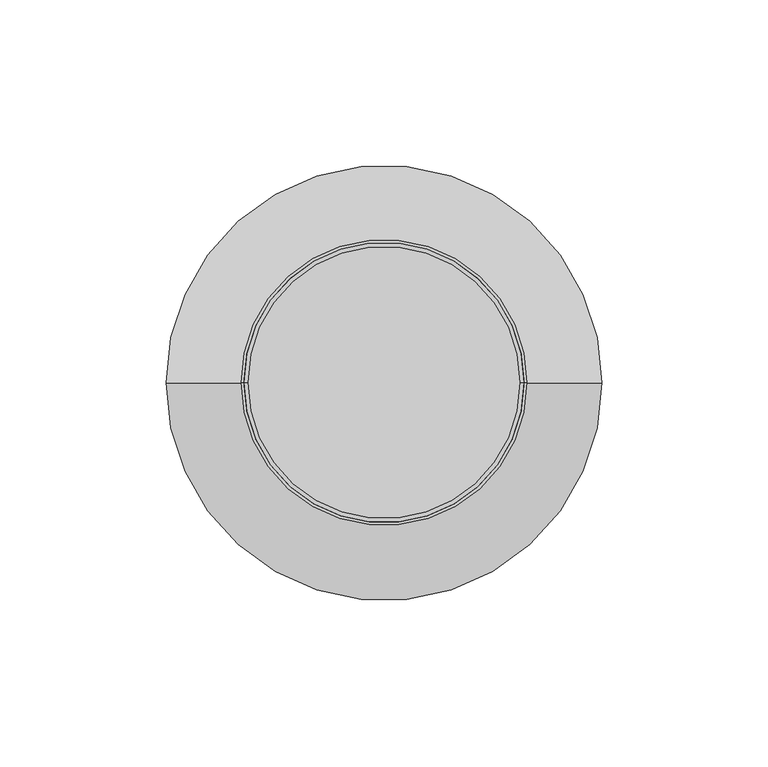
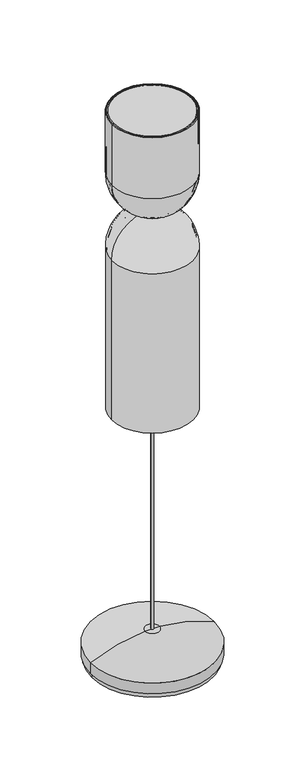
"""IFC4 building model written with IfcOpenShell, lengths in millimetres: light fixture geometry, Lighting_Pendants_Intra-Lighting_Zoe-Z3 : 600lm 11W 830 FO."""

from ifc_helpers import new_model, si_unit, point, frame, origin, origin_with_axes, origin_2d, place, context, project, spatial, polyline, circle_curve, ellipse_curve, trimmed, segment, composite_curve, outline, extrude, source, transform, mapped, element, save
from ifc_brep_helpers import plane_surface, cylinder_surface, revolved_surface, advanced_brep


def light_fixture_9dd68e13(model_context):
    return source(origin(), model_context, "Body", "SolidModel", [
        advanced_brep(
        [(-5.0, 0.0, 500.0), (5.0, 0.0, 500.0), (0.0, 0.0, 500.0), (-5.0, 0.0, 496.5), (5.0, 0.0, 496.5), (-9.8, 0.0, 496.5), (9.8, 0.0, 496.5), (-25.0, 0.0, 489.1982906), (25.0, 0.0, 489.1982906), (-25.0, 0.0, 482.4982906), (25.0, 0.0, 482.4982906), (0.0, 0.0, 482.4982906)],
        [
            (0, 1, circle_curve(frame((0.0, 0.0, 500.0), z_axis=(0.0, 0.0, 1.0), x_axis=(1.0, 0.0, 0.0)), 5.0)),
            (1, 2),
            (2, 0),
            (1, 0, circle_curve(frame((0.0, 0.0, 500.0), z_axis=(0.0, 0.0, 1.0), x_axis=(1.0, 0.0, 0.0)), 5.0)),
            (3, 4, circle_curve(frame((0.0, 0.0, 496.5), z_axis=(0.0, 0.0, 1.0), x_axis=(1.0, 0.0, 0.0)), 5.0)),
            (4, 1),
            (0, 3),
            (4, 3, circle_curve(frame((0.0, 0.0, 496.5), z_axis=(0.0, 0.0, 1.0), x_axis=(1.0, 0.0, 0.0)), 5.0)),
            (5, 6, circle_curve(frame((0.0, 0.0, 496.5), z_axis=(0.0, 0.0, 1.0), x_axis=(1.0, 0.0, 0.0)), 9.8)),
            (6, 4),
            (3, 5),
            (6, 5, circle_curve(frame((0.0, 0.0, 496.5), z_axis=(0.0, 0.0, 1.0), x_axis=(1.0, 0.0, 0.0)), 9.8)),
            (7, 8, circle_curve(frame((0.0, 0.0, 489.1982906), z_axis=(0.0, 0.0, 1.0), x_axis=(1.0, 0.0, 0.0)), 25.0)),
            (8, 6, circle_curve(frame((9.8, 0.0, 477.0281925), z_axis=(0.0, -1.0, 0.0), x_axis=(1.0, 0.0, 0.0)), 19.4718075)),
            (5, 7, circle_curve(frame((-9.8, 0.0, 477.0281925), z_axis=(0.0, -1.0, 0.0), x_axis=(-1.0, 0.0, 0.0)), 19.4718075)),
            (8, 7, circle_curve(frame((0.0, 0.0, 489.1982906), z_axis=(0.0, 0.0, 1.0), x_axis=(1.0, 0.0, 0.0)), 25.0)),
            (9, 10, circle_curve(frame((0.0, 0.0, 482.4982906), z_axis=(0.0, 0.0, 1.0), x_axis=(1.0, 0.0, 0.0)), 25.0)),
            (10, 8),
            (7, 9),
            (10, 9, circle_curve(frame((0.0, 0.0, 482.4982906), z_axis=(0.0, 0.0, 1.0), x_axis=(1.0, 0.0, 0.0)), 25.0)),
            (11, 10),
            (9, 11),
        ],
        [
            plane_surface(frame((0.0, 0.0, 500.0), z_axis=(0.0, 0.0, 1.0), x_axis=(1.0, 0.0, 0.0))),
            cylinder_surface(frame((0.0, 0.0, -268.620728), z_axis=(0.0, 0.0, -1.0), x_axis=(1.0, 0.0, 0.0)), 5.0),
            plane_surface(frame((0.0, 0.0, 496.5), z_axis=(0.0, 0.0, 1.0), x_axis=(1.0, 0.0, 0.0))),
            revolved_surface(trimmed(ellipse_curve(frame((9.8, 0.0, 477.0281925), z_axis=(0.0, 1.0, 0.0), x_axis=(1.0, 0.0, 0.0)), 19.4718075, 19.4718075), [point((9.8, 0.0, 496.5))], [point((25.0, 0.0, 489.1982906))], True, "CARTESIAN"), (0.0, 0.0, -268.620728), (0.0, 0.0, -1.0)),
            cylinder_surface(frame((0.0, 0.0, -268.620728), z_axis=(0.0, 0.0, -1.0), x_axis=(1.0, 0.0, 0.0)), 25.0),
            plane_surface(frame((0.0, 0.0, 482.4982906), z_axis=(0.0, 0.0, -1.0), x_axis=(1.0, 0.0, 0.0))),
        ],
        [
            (0, [[1, 2, 3]]),
            (0, [[4, -3, -2]]),
            (1, [[5, 6, -1, 7]]),
            (1, [[8, -7, -4, -6]]),
            (2, [[9, 10, -5, 11]]),
            (2, [[12, -11, -8, -10]]),
            (3, [[13, 14, -9, 15]]),
            (3, [[16, -15, -12, -14]]),
            (4, [[17, 18, -13, 19]]),
            (4, [[20, -19, -16, -18]]),
            (5, [[21, -17, 22]]),
            (5, [[-22, -20, -21]]),
        ],
    ),
        advanced_brep(
        [(-42.9586151, 0.0, 280.0000031), (42.9586151, 0.0, 280.0000031), (42.9586151, 0.0, 457.6805564), (-42.9586151, 0.0, 457.6805564), (-42.1586151, 0.0, 458.2055116), (42.1586151, 0.0, 458.2055116), (42.1586151, 0.0, 280.0000031), (-42.1586151, 0.0, 280.0000031), (-5.0, 0.0, 498.6299346), (5.0, 0.0, 498.6299346), (13.1648273, 0.0, 498.6299346), (-13.1648273, 0.0, 498.6299346), (-5.0, 0.0, 500.0), (5.0, 0.0, 500.0), (-10.0209635, 0.0, 500.0), (10.0209635, 0.0, 500.0)],
        [
            (0, 1, circle_curve(frame((0.0, 0.0, 280.0000031), z_axis=(0.0, 0.0, 1.0), x_axis=(1.0, 0.0, 0.0)), 42.9586151)),
            (1, 2),
            (2, 3, circle_curve(frame((0.0, 0.0, 457.6805564), z_axis=(0.0, 0.0, -1.0), x_axis=(1.0, 0.0, 0.0)), 42.9586151)),
            (3, 0),
            (1, 0, circle_curve(frame((0.0, 0.0, 280.0000031), z_axis=(0.0, 0.0, 1.0), x_axis=(1.0, 0.0, 0.0)), 42.9586151)),
            (3, 2, circle_curve(frame((0.0, 0.0, 457.6805564), z_axis=(0.0, 0.0, -1.0), x_axis=(1.0, 0.0, 0.0)), 42.9586151)),
            (4, 5, circle_curve(frame((0.0, 0.0, 458.2055116), z_axis=(0.0, 0.0, 1.0), x_axis=(1.0, 0.0, 0.0)), 42.1586151)),
            (5, 6),
            (6, 7, circle_curve(frame((0.0, 0.0, 280.0000031), z_axis=(0.0, 0.0, -1.0), x_axis=(1.0, 0.0, 0.0)), 42.1586151)),
            (7, 4),
            (5, 4, circle_curve(frame((0.0, 0.0, 458.2055116), z_axis=(0.0, 0.0, 1.0), x_axis=(1.0, 0.0, 0.0)), 42.1586151)),
            (7, 6, circle_curve(frame((0.0, 0.0, 280.0000031), z_axis=(0.0, 0.0, -1.0), x_axis=(1.0, 0.0, 0.0)), 42.1586151)),
            (8, 9, circle_curve(frame((0.0, 0.0, 498.6299346), z_axis=(0.0, 0.0, 1.0), x_axis=(1.0, 0.0, 0.0)), 5.0)),
            (9, 10),
            (10, 11, circle_curve(frame((0.0, 0.0, 498.6299346), z_axis=(0.0, 0.0, -1.0), x_axis=(1.0, 0.0, 0.0)), 13.1648273)),
            (11, 8),
            (9, 8, circle_curve(frame((0.0, 0.0, 498.6299346), z_axis=(0.0, 0.0, 1.0), x_axis=(1.0, 0.0, 0.0)), 5.0)),
            (11, 10, circle_curve(frame((0.0, 0.0, 498.6299346), z_axis=(0.0, 0.0, -1.0), x_axis=(1.0, 0.0, 0.0)), 13.1648273)),
            (12, 13, circle_curve(frame((0.0, 0.0, 500.0), z_axis=(0.0, 0.0, 1.0), x_axis=(1.0, 0.0, 0.0)), 5.0)),
            (13, 9),
            (8, 12),
            (13, 12, circle_curve(frame((0.0, 0.0, 500.0), z_axis=(0.0, 0.0, 1.0), x_axis=(1.0, 0.0, 0.0)), 5.0)),
            (14, 15, circle_curve(frame((0.0, 0.0, 500.0), z_axis=(0.0, 0.0, 1.0), x_axis=(1.0, 0.0, 0.0)), 10.0209635)),
            (15, 13),
            (12, 14),
            (15, 14, circle_curve(frame((0.0, 0.0, 500.0), z_axis=(0.0, 0.0, 1.0), x_axis=(1.0, 0.0, 0.0)), 10.0209635)),
            (2, 15, circle_curve(frame((-0.0224785, 0.0, 458.2055116), z_axis=(0.0, -1.0, 0.0), x_axis=(-1.0, 0.0, 0.0)), 42.9842993)),
            (14, 3, circle_curve(frame((0.0224785, 0.0, 458.2055116), z_axis=(0.0, -1.0, 0.0), x_axis=(1.0, 0.0, 0.0)), 42.9842993)),
            (6, 1),
            (0, 7),
            (10, 5, circle_curve(frame((-0.5190391, 0.0, 458.2055116), z_axis=(0.0, 1.0, 0.0), x_axis=(-1.0, 0.0, 0.0)), 42.6776543)),
            (4, 11, circle_curve(frame((0.5190391, 0.0, 458.2055116), z_axis=(0.0, 1.0, 0.0), x_axis=(1.0, 0.0, 0.0)), 42.6776543)),
        ],
        [
            cylinder_surface(frame((0.0, 0.0, 2494.3150062), z_axis=(0.0, 0.0, -1.0), x_axis=(1.0, 0.0, 0.0)), 42.9586151),
            revolved_surface(polyline([(42.1586151, 0.0, 280.00000309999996), (42.1586151, 0.0, 458.20551160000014)]), (0.0, 0.0, 2494.3150062), (0.0, 0.0, -1.0)),
            plane_surface(frame((0.0, 0.0, 498.6299346), z_axis=(0.0, 0.0, -1.0), x_axis=(1.0, 0.0, 0.0))),
            revolved_surface(polyline([(5.0, 0.0, 498.62993460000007), (5.0, 0.0, 500.0)]), (0.0, 0.0, 2494.3150062), (0.0, 0.0, -1.0)),
            plane_surface(frame((0.0, 0.0, 500.0), z_axis=(0.0, 0.0, 1.0), x_axis=(1.0, 0.0, 0.0))),
            revolved_surface(trimmed(ellipse_curve(frame((-0.0224785, 0.0, 458.2055116), z_axis=(0.0, 1.0, 0.0), x_axis=(-1.0, 0.0, 0.0)), 42.9842993, 42.9842993), [point((10.0209635, 0.0, 500.0))], [point((42.9586151, 0.0, 457.6805564))], True, "CARTESIAN"), (0.0, 0.0, 2494.3150062), (0.0, 0.0, -1.0)),
            plane_surface(frame((0.0, 0.0, 280.0000031), z_axis=(0.0, 0.0, -1.0), x_axis=(1.0, 0.0, 0.0))),
            revolved_surface(trimmed(ellipse_curve(frame((-0.5190391, 0.0, 458.2055116), z_axis=(0.0, -1.0, 0.0), x_axis=(-1.0, 0.0, 0.0)), 42.6776543, 42.6776543), [point((42.1586151, 0.0, 458.2055116))], [point((13.1648273, 0.0, 498.6299346))], True, "CARTESIAN"), (0.0, 0.0, 2494.3150062), (0.0, 0.0, -1.0)),
        ],
        [
            (0, [[1, 2, 3, 4]]),
            (0, [[5, -4, 6, -2]]),
            (1, [[7, 8, 9, 10]]),
            (1, [[11, -10, 12, -8]]),
            (2, [[13, 14, 15, 16]]),
            (2, [[17, -16, 18, -14]]),
            (3, [[19, 20, -13, 21]]),
            (3, [[22, -21, -17, -20]]),
            (4, [[23, 24, -19, 25]]),
            (4, [[26, -25, -22, -24]]),
            (5, [[-3, 27, -23, 28]]),
            (5, [[-6, -28, -26, -27]]),
            (6, [[-9, 29, -1, 30]]),
            (6, [[-12, -30, -5, -29]]),
            (7, [[-15, 31, -7, 32]]),
            (7, [[-18, -32, -11, -31]]),
        ],
    ),
        advanced_brep(
        [(-41.079333, 0.0, 458.1789517), (41.079333, 0.0, 458.1789517), (41.079333, 0.0, 280.0000031), (-41.079333, 0.0, 280.0000031), (-10.4087374, 0.0, 497.8425134), (10.4087374, 0.0, 497.8425134), (-5.0, 0.0, 497.8425134), (5.0, 0.0, 497.8425134), (-5.0, 0.0, 498.6299346), (5.0, 0.0, 498.6299346), (-13.1648273, 0.0, 498.6299346), (13.1648273, 0.0, 498.6299346), (-42.1586151, 0.0, 458.1789517), (42.1586151, 0.0, 458.1789517), (-42.1586151, 0.0, 280.0000031), (42.1586151, 0.0, 280.0000031)],
        [
            (0, 1, circle_curve(frame((0.0, 0.0, 458.1789517), z_axis=(0.0, 0.0, 1.0), x_axis=(1.0, 0.0, 0.0)), 41.079333)),
            (1, 2),
            (2, 3, circle_curve(frame((0.0, 0.0, 280.0000031), z_axis=(0.0, 0.0, -1.0), x_axis=(1.0, 0.0, 0.0)), 41.079333)),
            (3, 0),
            (1, 0, circle_curve(frame((0.0, 0.0, 458.1789517), z_axis=(0.0, 0.0, 1.0), x_axis=(1.0, 0.0, 0.0)), 41.079333)),
            (3, 2, circle_curve(frame((0.0, 0.0, 280.0000031), z_axis=(0.0, 0.0, -1.0), x_axis=(1.0, 0.0, 0.0)), 41.079333)),
            (4, 5, circle_curve(frame((0.0, 0.0, 497.8425134), z_axis=(0.0, 0.0, 1.0), x_axis=(1.0, 0.0, 0.0)), 10.4087374)),
            (5, 1, circle_curve(frame((0.0973516, 0.0, 458.1789517), z_axis=(0.0, 1.0, 0.0), x_axis=(-1.0, 0.0, 0.0)), 40.9819814)),
            (0, 4, circle_curve(frame((-0.0973516, 0.0, 458.1789517), z_axis=(0.0, 1.0, 0.0), x_axis=(1.0, 0.0, 0.0)), 40.9819814)),
            (5, 4, circle_curve(frame((0.0, 0.0, 497.8425134), z_axis=(0.0, 0.0, 1.0), x_axis=(1.0, 0.0, 0.0)), 10.4087374)),
            (6, 7, circle_curve(frame((0.0, 0.0, 497.8425134), z_axis=(0.0, 0.0, 1.0), x_axis=(1.0, 0.0, 0.0)), 5.0)),
            (7, 5),
            (4, 6),
            (7, 6, circle_curve(frame((0.0, 0.0, 497.8425134), z_axis=(0.0, 0.0, 1.0), x_axis=(1.0, 0.0, 0.0)), 5.0)),
            (8, 9, circle_curve(frame((0.0, 0.0, 498.6299346), z_axis=(0.0, 0.0, 1.0), x_axis=(1.0, 0.0, 0.0)), 5.0)),
            (9, 7),
            (6, 8),
            (9, 8, circle_curve(frame((0.0, 0.0, 498.6299346), z_axis=(0.0, 0.0, 1.0), x_axis=(1.0, 0.0, 0.0)), 5.0)),
            (10, 11, circle_curve(frame((0.0, 0.0, 498.6299346), z_axis=(0.0, 0.0, 1.0), x_axis=(1.0, 0.0, 0.0)), 13.1648273)),
            (11, 9),
            (8, 10),
            (11, 10, circle_curve(frame((0.0, 0.0, 498.6299346), z_axis=(0.0, 0.0, 1.0), x_axis=(1.0, 0.0, 0.0)), 13.1648273)),
            (12, 13, circle_curve(frame((0.0, 0.0, 458.1789517), z_axis=(0.0, 0.0, 1.0), x_axis=(1.0, 0.0, 0.0)), 42.1586151)),
            (13, 11, circle_curve(frame((-0.5560824, 0.0, 458.1789517), z_axis=(0.0, -1.0, 0.0), x_axis=(-1.0, 0.0, 0.0)), 42.7146975)),
            (10, 12, circle_curve(frame((0.5560824, 0.0, 458.1789517), z_axis=(0.0, -1.0, 0.0), x_axis=(1.0, 0.0, 0.0)), 42.7146975)),
            (13, 12, circle_curve(frame((0.0, 0.0, 458.1789517), z_axis=(0.0, 0.0, 1.0), x_axis=(1.0, 0.0, 0.0)), 42.1586151)),
            (14, 15, circle_curve(frame((0.0, 0.0, 280.0000031), z_axis=(0.0, 0.0, 1.0), x_axis=(1.0, 0.0, 0.0)), 42.1586151)),
            (15, 13),
            (12, 14),
            (15, 14, circle_curve(frame((0.0, 0.0, 280.0000031), z_axis=(0.0, 0.0, 1.0), x_axis=(1.0, 0.0, 0.0)), 42.1586151)),
            (2, 15),
            (14, 3),
        ],
        [
            revolved_surface(polyline([(41.079333, 0.0, 280.00000309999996), (41.079333, 0.0, 458.17895169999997)]), (0.0, 0.0, 2494.3150062), (0.0, 0.0, -1.0)),
            revolved_surface(trimmed(ellipse_curve(frame((0.0973516, 0.0, 458.1789517), z_axis=(0.0, -1.0, 0.0), x_axis=(-1.0, 0.0, 0.0)), 40.9819814, 40.9819814), [point((41.079333, 0.0, 458.1789517))], [point((10.4087374, 0.0, 497.8425134))], True, "CARTESIAN"), (0.0, 0.0, 2494.3150062), (0.0, 0.0, -1.0)),
            plane_surface(frame((0.0, 0.0, 497.8425134), z_axis=(0.0, 0.0, -1.0), x_axis=(1.0, 0.0, 0.0))),
            revolved_surface(polyline([(5.0, 0.0, 497.8425133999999), (5.0, 0.0, 498.62993460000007)]), (0.0, 0.0, 2494.3150062), (0.0, 0.0, -1.0)),
            plane_surface(frame((0.0, 0.0, 498.6299346), z_axis=(0.0, 0.0, 1.0), x_axis=(1.0, 0.0, 0.0))),
            revolved_surface(trimmed(ellipse_curve(frame((-0.5560824, 0.0, 458.1789517), z_axis=(0.0, 1.0, 0.0), x_axis=(-1.0, 0.0, 0.0)), 42.7146975, 42.7146975), [point((13.1648273, 0.0, 498.6299346))], [point((42.1586151, 0.0, 458.1789517))], True, "CARTESIAN"), (0.0, 0.0, 2494.3150062), (0.0, 0.0, -1.0)),
            cylinder_surface(frame((0.0, 0.0, 2494.3150062), z_axis=(0.0, 0.0, -1.0), x_axis=(1.0, 0.0, 0.0)), 42.1586151),
            plane_surface(frame((0.0, 0.0, 280.0000031), z_axis=(0.0, 0.0, -1.0), x_axis=(1.0, 0.0, 0.0))),
        ],
        [
            (0, [[1, 2, 3, 4]]),
            (0, [[5, -4, 6, -2]]),
            (1, [[7, 8, -1, 9]]),
            (1, [[10, -9, -5, -8]]),
            (2, [[11, 12, -7, 13]]),
            (2, [[14, -13, -10, -12]]),
            (3, [[15, 16, -11, 17]]),
            (3, [[18, -17, -14, -16]]),
            (4, [[19, 20, -15, 21]]),
            (4, [[22, -21, -18, -20]]),
            (5, [[23, 24, -19, 25]]),
            (5, [[26, -25, -22, -24]]),
            (6, [[27, 28, -23, 29]]),
            (6, [[30, -29, -26, -28]]),
            (7, [[-3, 31, -27, 32]]),
            (7, [[-6, -32, -30, -31]]),
        ],
    ),
        advanced_brep(
        [(-5.0, 0.0, 500.0), (5.0, 0.0, 500.0), (0.0, 0.0, 500.0), (-5.0, 0.0, 503.5), (5.0, 0.0, 503.5), (-9.8, 0.0, 503.5), (9.8, 0.0, 503.5), (-25.0, 0.0, 510.8017094), (25.0, 0.0, 510.8017094), (-25.0, 0.0, 517.5017094), (25.0, 0.0, 517.5017094), (0.0, 0.0, 517.5017094)],
        [
            (0, 1, circle_curve(frame((0.0, 0.0, 500.0), z_axis=(0.0, 0.0, -1.0), x_axis=(1.0, 0.0, 0.0)), 5.0)),
            (1, 2),
            (2, 0),
            (1, 0, circle_curve(frame((0.0, 0.0, 500.0), z_axis=(0.0, 0.0, -1.0), x_axis=(1.0, 0.0, 0.0)), 5.0)),
            (3, 4, circle_curve(frame((0.0, 0.0, 503.5), z_axis=(0.0, 0.0, -1.0), x_axis=(1.0, 0.0, 0.0)), 5.0)),
            (4, 1),
            (0, 3),
            (4, 3, circle_curve(frame((0.0, 0.0, 503.5), z_axis=(0.0, 0.0, -1.0), x_axis=(1.0, 0.0, 0.0)), 5.0)),
            (5, 6, circle_curve(frame((0.0, 0.0, 503.5), z_axis=(0.0, 0.0, -1.0), x_axis=(1.0, 0.0, 0.0)), 9.8)),
            (6, 4),
            (3, 5),
            (6, 5, circle_curve(frame((0.0, 0.0, 503.5), z_axis=(0.0, 0.0, -1.0), x_axis=(1.0, 0.0, 0.0)), 9.8)),
            (7, 8, circle_curve(frame((0.0, 0.0, 510.8017094), z_axis=(0.0, 0.0, -1.0), x_axis=(1.0, 0.0, 0.0)), 25.0)),
            (8, 6, circle_curve(frame((9.8, 0.0, 522.9718075), z_axis=(0.0, 1.0, 0.0), x_axis=(1.0, 0.0, 0.0)), 19.4718075)),
            (5, 7, circle_curve(frame((-9.8, 0.0, 522.9718075), z_axis=(0.0, 1.0, 0.0), x_axis=(-1.0, 0.0, 0.0)), 19.4718075)),
            (8, 7, circle_curve(frame((0.0, 0.0, 510.8017094), z_axis=(0.0, 0.0, -1.0), x_axis=(1.0, 0.0, 0.0)), 25.0)),
            (9, 10, circle_curve(frame((0.0, 0.0, 517.5017094), z_axis=(0.0, 0.0, -1.0), x_axis=(1.0, 0.0, 0.0)), 25.0)),
            (10, 8),
            (7, 9),
            (10, 9, circle_curve(frame((0.0, 0.0, 517.5017094), z_axis=(0.0, 0.0, -1.0), x_axis=(1.0, 0.0, 0.0)), 25.0)),
            (11, 10),
            (9, 11),
        ],
        [
            plane_surface(frame((0.0, 0.0, 500.0), z_axis=(0.0, 0.0, -1.0), x_axis=(1.0, 0.0, 0.0))),
            cylinder_surface(frame((0.0, 0.0, 1268.620728), z_axis=(0.0, 0.0, 1.0), x_axis=(1.0, 0.0, 0.0)), 5.0),
            plane_surface(frame((0.0, 0.0, 503.5), z_axis=(0.0, 0.0, -1.0), x_axis=(1.0, 0.0, 0.0))),
            revolved_surface(trimmed(ellipse_curve(frame((9.8, 0.0, 522.9718075), z_axis=(0.0, -1.0, 0.0), x_axis=(1.0, 0.0, 0.0)), 19.4718075, 19.4718075), [point((9.8, 0.0, 503.5))], [point((25.0, 0.0, 510.8017094))], True, "CARTESIAN"), (0.0, 0.0, 1268.620728), (0.0, 0.0, 1.0)),
            cylinder_surface(frame((0.0, 0.0, 1268.620728), z_axis=(0.0, 0.0, 1.0), x_axis=(1.0, 0.0, 0.0)), 25.0),
            plane_surface(frame((0.0, 0.0, 517.5017094), z_axis=(0.0, 0.0, 1.0), x_axis=(1.0, 0.0, 0.0))),
        ],
        [
            (0, [[1, 2, 3]]),
            (0, [[4, -3, -2]]),
            (1, [[5, 6, -1, 7]]),
            (1, [[8, -7, -4, -6]]),
            (2, [[9, 10, -5, 11]]),
            (2, [[12, -11, -8, -10]]),
            (3, [[13, 14, -9, 15]]),
            (3, [[16, -15, -12, -14]]),
            (4, [[17, 18, -13, 19]]),
            (4, [[20, -19, -16, -18]]),
            (5, [[21, -17, 22]]),
            (5, [[-22, -20, -21]]),
        ],
    ),
        advanced_brep(
        [(9.9874082, 0.0, 500.0), (-9.9874082, 0.0, 500.0), (-42.9999371, 0.0, 541.8209938), (42.9999371, 0.0, 541.8209938), (4.9982596, 0.0, 500.0), (-4.9982596, 0.0, 500.0), (4.9982596, 0.0, 501.1413211), (-4.9982596, 0.0, 501.1413211), (12.7433963, 0.0, 501.1413211), (-12.7433963, 0.0, 501.1413211), (42.5620369, 0.0, 541.8227675), (-42.5620369, 0.0, 541.8227675), (42.204104, 0.0, 609.9999718), (-42.204104, 0.0, 609.9999718), (42.9999371, 0.0, 609.9999718), (-42.9999371, 0.0, 609.9999718)],
        [
            (0, 1, circle_curve(frame((0.0, 0.0, 500.0), z_axis=(0.0, 0.0, 1.0), x_axis=(-1.0, 0.0, 0.0)), 9.9874082)),
            (1, 2, circle_curve(frame((0.2179596, 0.0, 541.996044), z_axis=(0.0, 1.0, 0.0), x_axis=(1.0, 0.0, 0.0)), 43.2182512)),
            (2, 3, circle_curve(frame((0.0, 0.0, 541.8209938), z_axis=(0.0, 0.0, -1.0), x_axis=(-1.0, 0.0, 0.0)), 42.9999371)),
            (3, 0, circle_curve(frame((-0.2179596, 0.0, 541.996044), z_axis=(0.0, 1.0, 0.0), x_axis=(-1.0, 0.0, 0.0)), 43.2182512)),
            (1, 0, circle_curve(frame((0.0, 0.0, 500.0), z_axis=(0.0, 0.0, 1.0), x_axis=(-1.0, 0.0, 0.0)), 9.9874082)),
            (3, 2, circle_curve(frame((0.0, 0.0, 541.8209938), z_axis=(0.0, 0.0, -1.0), x_axis=(-1.0, 0.0, 0.0)), 42.9999371)),
            (4, 5, circle_curve(frame((0.0, 0.0, 500.0), z_axis=(0.0, 0.0, 1.0), x_axis=(-1.0, 0.0, 0.0)), 4.9982596)),
            (5, 1),
            (0, 4),
            (5, 4, circle_curve(frame((0.0, 0.0, 500.0), z_axis=(0.0, 0.0, 1.0), x_axis=(-1.0, 0.0, 0.0)), 4.9982596)),
            (6, 7, circle_curve(frame((0.0, 0.0, 501.1413211), z_axis=(0.0, 0.0, 1.0), x_axis=(-1.0, 0.0, 0.0)), 4.9982596)),
            (7, 5),
            (4, 6),
            (7, 6, circle_curve(frame((0.0, 0.0, 501.1413211), z_axis=(0.0, 0.0, 1.0), x_axis=(-1.0, 0.0, 0.0)), 4.9982596)),
            (8, 9, circle_curve(frame((0.0, 0.0, 501.1413211), z_axis=(0.0, 0.0, 1.0), x_axis=(-1.0, 0.0, 0.0)), 12.7433963)),
            (9, 7),
            (6, 8),
            (9, 8, circle_curve(frame((0.0, 0.0, 501.1413211), z_axis=(0.0, 0.0, 1.0), x_axis=(-1.0, 0.0, 0.0)), 12.7433963)),
            (10, 11, circle_curve(frame((0.0, 0.0, 541.8227675), z_axis=(0.0, 0.0, 1.0), x_axis=(-1.0, 0.0, 0.0)), 42.5620369)),
            (11, 9, circle_curve(frame((0.4499992, 0.0, 542.0807411), z_axis=(0.0, -1.0, 0.0), x_axis=(1.0, 0.0, 0.0)), 43.0128097)),
            (8, 10, circle_curve(frame((-0.4499992, 0.0, 542.0807411), z_axis=(0.0, -1.0, 0.0), x_axis=(-1.0, 0.0, 0.0)), 43.0128097)),
            (11, 10, circle_curve(frame((0.0, 0.0, 541.8227675), z_axis=(0.0, 0.0, 1.0), x_axis=(-1.0, 0.0, 0.0)), 42.5620369)),
            (12, 13, circle_curve(frame((0.0, 0.0, 609.9999718), z_axis=(0.0, 0.0, 1.0), x_axis=(-1.0, 0.0, 0.0)), 42.204104)),
            (13, 11),
            (10, 12),
            (13, 12, circle_curve(frame((0.0, 0.0, 609.9999718), z_axis=(0.0, 0.0, 1.0), x_axis=(-1.0, 0.0, 0.0)), 42.204104)),
            (14, 15, circle_curve(frame((0.0, 0.0, 609.9999718), z_axis=(0.0, 0.0, 1.0), x_axis=(-1.0, 0.0, 0.0)), 42.9999371)),
            (15, 13),
            (12, 14),
            (15, 14, circle_curve(frame((0.0, 0.0, 609.9999718), z_axis=(0.0, 0.0, 1.0), x_axis=(-1.0, 0.0, 0.0)), 42.9999371)),
            (2, 15),
            (14, 3),
        ],
        [
            revolved_surface(trimmed(ellipse_curve(frame((0.2179596, 0.0, 541.996044), z_axis=(0.0, -1.0, 0.0), x_axis=(1.0, 0.0, 0.0)), 43.2182512, 43.2182512), [point((-42.9999371, 0.0, 541.8209938))], [point((-9.9874082, 0.0, 500.0))], True, "CARTESIAN"), (0.0, 0.0, 2714.3150031), (0.0, 0.0, -1.0)),
            plane_surface(frame((0.0, 0.0, 500.0), z_axis=(0.0, 0.0, -1.0), x_axis=(-1.0, 0.0, 0.0))),
            revolved_surface(polyline([(-4.9982596, 0.0, 500.0), (-4.9982596, 0.0, 501.1413210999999)]), (0.0, 0.0, 2714.3150031), (0.0, 0.0, -1.0)),
            plane_surface(frame((0.0, 0.0, 501.1413211), z_axis=(0.0, 0.0, 1.0), x_axis=(-1.0, 0.0, 0.0))),
            revolved_surface(trimmed(ellipse_curve(frame((0.4499992, 0.0, 542.0807411), z_axis=(0.0, 1.0, 0.0), x_axis=(1.0, 0.0, 0.0)), 43.0128097, 43.0128097), [point((-12.7433963, 0.0, 501.1413211))], [point((-42.5620369, 0.0, 541.8227675))], True, "CARTESIAN"), (0.0, 0.0, 2714.3150031), (0.0, 0.0, -1.0)),
            revolved_surface(polyline([(-42.5620369, 0.0, 541.8227675), (-42.204104, 0.0, 609.9999718)]), (0.0, 0.0, 2714.3150031), (0.0, 0.0, -1.0)),
            plane_surface(frame((0.0, 0.0, 609.9999718), z_axis=(0.0, 0.0, 1.0), x_axis=(-1.0, 0.0, 0.0))),
            cylinder_surface(frame((0.0, 0.0, 2714.3150031), z_axis=(0.0, 0.0, -1.0), x_axis=(-1.0, 0.0, 0.0)), 42.9999371),
        ],
        [
            (0, [[1, 2, 3, 4]]),
            (0, [[5, -4, 6, -2]]),
            (1, [[7, 8, -1, 9]]),
            (1, [[10, -9, -5, -8]]),
            (2, [[11, 12, -7, 13]]),
            (2, [[14, -13, -10, -12]]),
            (3, [[15, 16, -11, 17]]),
            (3, [[18, -17, -14, -16]]),
            (4, [[19, 20, -15, 21]]),
            (4, [[22, -21, -18, -20]]),
            (5, [[23, 24, -19, 25]]),
            (5, [[26, -25, -22, -24]]),
            (6, [[27, 28, -23, 29]]),
            (6, [[30, -29, -26, -28]]),
            (7, [[-3, 31, -27, 32]]),
            (7, [[-6, -32, -30, -31]]),
        ],
    ),
        advanced_brep(
        [(12.7433963, 0.0, 501.1413211), (-12.7433963, 0.0, 501.1413211), (-42.5620369, 0.0, 541.8227675), (42.5620369, 0.0, 541.8227675), (5.0, 0.0, 501.1413211), (-5.0, 0.0, 501.1413211), (9.7551095, 0.0, 501.9999506), (-9.7551095, 0.0, 501.9999506), (-5.0, 0.0, 501.9999506), (5.0, 0.0, 501.9999506), (40.9999411, 0.0, 541.8227675), (-40.9999411, 0.0, 541.8227675), (40.9999411, 0.0, 609.9999718), (-40.9999411, 0.0, 609.9999718), (42.204104, 0.0, 609.9999718), (-42.204104, 0.0, 609.9999718)],
        [
            (0, 1, circle_curve(frame((0.0, 0.0, 501.1413211), z_axis=(0.0, 0.0, 1.0), x_axis=(-1.0, 0.0, 0.0)), 12.7433963)),
            (1, 2, circle_curve(frame((0.4127903, 0.0, 542.0534678), z_axis=(0.0, 1.0, 0.0), x_axis=(1.0, 0.0, 0.0)), 42.9754464)),
            (2, 3, circle_curve(frame((0.0, 0.0, 541.8227675), z_axis=(0.0, 0.0, -1.0), x_axis=(-1.0, 0.0, 0.0)), 42.5620369)),
            (3, 0, circle_curve(frame((-0.4127903, 0.0, 542.0534678), z_axis=(0.0, 1.0, 0.0), x_axis=(-1.0, 0.0, 0.0)), 42.9754464)),
            (1, 0, circle_curve(frame((0.0, 0.0, 501.1413211), z_axis=(0.0, 0.0, 1.0), x_axis=(-1.0, 0.0, 0.0)), 12.7433963)),
            (3, 2, circle_curve(frame((0.0, 0.0, 541.8227675), z_axis=(0.0, 0.0, -1.0), x_axis=(-1.0, 0.0, 0.0)), 42.5620369)),
            (4, 5, circle_curve(frame((0.0, 0.0, 501.1413211), z_axis=(0.0, 0.0, 1.0), x_axis=(-1.0, 0.0, 0.0)), 5.0)),
            (5, 1),
            (0, 4),
            (5, 4, circle_curve(frame((0.0, 0.0, 501.1413211), z_axis=(0.0, 0.0, 1.0), x_axis=(-1.0, 0.0, 0.0)), 5.0)),
            (6, 7, circle_curve(frame((0.0, 0.0, 501.9999506), z_axis=(0.0, 0.0, 1.0), x_axis=(-1.0, 0.0, 0.0)), 9.7551095)),
            (7, 8),
            (8, 9, circle_curve(frame((0.0, 0.0, 501.9999506), z_axis=(0.0, 0.0, -1.0), x_axis=(-1.0, 0.0, 0.0)), 5.0)),
            (9, 6),
            (7, 6, circle_curve(frame((0.0, 0.0, 501.9999506), z_axis=(0.0, 0.0, 1.0), x_axis=(-1.0, 0.0, 0.0)), 9.7551095)),
            (9, 8, circle_curve(frame((0.0, 0.0, 501.9999506), z_axis=(0.0, 0.0, -1.0), x_axis=(-1.0, 0.0, 0.0)), 5.0)),
            (10, 11, circle_curve(frame((0.0, 0.0, 541.8227675), z_axis=(0.0, 0.0, 1.0), x_axis=(-1.0, 0.0, 0.0)), 40.9999411)),
            (11, 7, circle_curve(frame((0.8518479, 0.0, 542.4908261), z_axis=(0.0, -1.0, 0.0), x_axis=(1.0, 0.0, 0.0)), 41.8571206)),
            (6, 10, circle_curve(frame((-0.8518479, 0.0, 542.4908261), z_axis=(0.0, -1.0, 0.0), x_axis=(-1.0, 0.0, 0.0)), 41.8571206)),
            (11, 10, circle_curve(frame((0.0, 0.0, 541.8227675), z_axis=(0.0, 0.0, 1.0), x_axis=(-1.0, 0.0, 0.0)), 40.9999411)),
            (12, 13, circle_curve(frame((0.0, 0.0, 609.9999718), z_axis=(0.0, 0.0, 1.0), x_axis=(-1.0, 0.0, 0.0)), 40.9999411)),
            (13, 11),
            (10, 12),
            (13, 12, circle_curve(frame((0.0, 0.0, 609.9999718), z_axis=(0.0, 0.0, 1.0), x_axis=(-1.0, 0.0, 0.0)), 40.9999411)),
            (14, 15, circle_curve(frame((0.0, 0.0, 609.9999718), z_axis=(0.0, 0.0, 1.0), x_axis=(-1.0, 0.0, 0.0)), 42.204104)),
            (15, 13),
            (12, 14),
            (15, 14, circle_curve(frame((0.0, 0.0, 609.9999718), z_axis=(0.0, 0.0, 1.0), x_axis=(-1.0, 0.0, 0.0)), 42.204104)),
            (2, 15),
            (14, 3),
            (8, 5),
            (4, 9),
        ],
        [
            revolved_surface(trimmed(ellipse_curve(frame((0.4127903, 0.0, 542.0534678), z_axis=(0.0, -1.0, 0.0), x_axis=(1.0, 0.0, 0.0)), 42.9754464, 42.9754464), [point((-42.5620369, 0.0, 541.8227675))], [point((-12.7433963, 0.0, 501.1413211))], True, "CARTESIAN"), (0.0, 0.0, 2714.3150031), (0.0, 0.0, -1.0)),
            plane_surface(frame((0.0, 0.0, 501.1413211), z_axis=(0.0, 0.0, -1.0), x_axis=(-1.0, 0.0, 0.0))),
            plane_surface(frame((0.0, 0.0, 501.9999506), z_axis=(0.0, 0.0, 1.0), x_axis=(-1.0, 0.0, 0.0))),
            revolved_surface(trimmed(ellipse_curve(frame((0.8518479, 0.0, 542.4908261), z_axis=(0.0, 1.0, 0.0), x_axis=(1.0, 0.0, 0.0)), 41.8571206, 41.8571206), [point((-9.7551095, 0.0, 501.9999506))], [point((-40.9999411, 0.0, 541.8227675))], True, "CARTESIAN"), (0.0, 0.0, 2714.3150031), (0.0, 0.0, -1.0)),
            revolved_surface(polyline([(-40.9999411, 0.0, 541.8227675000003), (-40.9999411, 0.0, 609.9999717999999)]), (0.0, 0.0, 2714.3150031), (0.0, 0.0, -1.0)),
            plane_surface(frame((0.0, 0.0, 609.9999718), z_axis=(0.0, 0.0, 1.0), x_axis=(-1.0, 0.0, 0.0))),
            revolved_surface(polyline([(-42.204104, 0.0, 609.9999718), (-42.5620369, 0.0, 541.8227675)]), (0.0, 0.0, 2714.3150031), (0.0, 0.0, -1.0)),
            revolved_surface(polyline([(-5.0, 0.0, 501.1413210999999), (-5.0, 0.0, 501.9999505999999)]), (0.0, 0.0, 2714.3150031), (0.0, 0.0, -1.0)),
        ],
        [
            (0, [[1, 2, 3, 4]]),
            (0, [[5, -4, 6, -2]]),
            (1, [[7, 8, -1, 9]]),
            (1, [[10, -9, -5, -8]]),
            (2, [[11, 12, 13, 14]]),
            (2, [[15, -14, 16, -12]]),
            (3, [[17, 18, -11, 19]]),
            (3, [[20, -19, -15, -18]]),
            (4, [[21, 22, -17, 23]]),
            (4, [[24, -23, -20, -22]]),
            (5, [[25, 26, -21, 27]]),
            (5, [[28, -27, -24, -26]]),
            (6, [[-3, 29, -25, 30]]),
            (6, [[-6, -30, -28, -29]]),
            (7, [[-13, 31, -7, 32]]),
            (7, [[-16, -32, -10, -31]]),
        ],
    ),
        advanced_brep(
        [(-64.0, 0.0, 5.0365766), (64.0, 0.0, 5.0365766), (64.0, 0.0, 0.0), (-64.0, 0.0, 0.0), (-65.4959325, 0.0, 5.0365766), (65.4959325, 0.0, 5.0365766), (-65.4959325, 0.0, 16.7192078), (65.4959325, 0.0, 16.7192078), (-7.9352279, 0.0, 31.693226), (7.9352279, 0.0, 31.693226), (0.0, 0.0, 0.0), (0.0, 0.0, 31.693226)],
        [
            (0, 1, circle_curve(frame((0.0, 0.0, 5.0365766), z_axis=(0.0, 0.0, -1.0), x_axis=(1.0, 0.0, 0.0)), 64.0)),
            (1, 2),
            (2, 3, circle_curve(origin_with_axes(), 64.0)),
            (3, 0),
            (1, 0, circle_curve(frame((0.0, 0.0, 5.0365766), z_axis=(0.0, 0.0, -1.0), x_axis=(1.0, 0.0, 0.0)), 64.0)),
            (3, 2, circle_curve(origin_with_axes(), 64.0)),
            (4, 5, circle_curve(frame((0.0, 0.0, 5.0365766), z_axis=(0.0, 0.0, -1.0), x_axis=(1.0, 0.0, 0.0)), 65.4959325)),
            (5, 1),
            (0, 4),
            (5, 4, circle_curve(frame((0.0, 0.0, 5.0365766), z_axis=(0.0, 0.0, -1.0), x_axis=(1.0, 0.0, 0.0)), 65.4959325)),
            (6, 7, circle_curve(frame((0.0, 0.0, 16.7192078), z_axis=(0.0, 0.0, -1.0), x_axis=(1.0, 0.0, 0.0)), 65.4959325)),
            (7, 5),
            (4, 6),
            (7, 6, circle_curve(frame((0.0, 0.0, 16.7192078), z_axis=(0.0, 0.0, -1.0), x_axis=(1.0, 0.0, 0.0)), 65.4959325)),
            (8, 9, circle_curve(frame((0.0, 0.0, 31.693226), z_axis=(0.0, 0.0, -1.0), x_axis=(1.0, 0.0, 0.0)), 7.9352279)),
            (9, 7, circle_curve(frame((-0.676072, 0.0, -119.5287389), z_axis=(0.0, 1.0, 0.0), x_axis=(1.0, 0.0, 0.0)), 151.4669507)),
            (6, 8, circle_curve(frame((0.676072, 0.0, -119.5287389), z_axis=(0.0, 1.0, 0.0), x_axis=(-1.0, 0.0, 0.0)), 151.4669507)),
            (9, 8, circle_curve(frame((0.0, 0.0, 31.693226), z_axis=(0.0, 0.0, -1.0), x_axis=(1.0, 0.0, 0.0)), 7.9352279)),
            (2, 10),
            (10, 3),
            (11, 9),
            (8, 11),
        ],
        [
            cylinder_surface(origin_with_axes(), 64.0),
            plane_surface(frame((0.0, 0.0, 5.0365766), z_axis=(0.0, 0.0, -1.0), x_axis=(1.0, 0.0, 0.0))),
            cylinder_surface(origin_with_axes(), 65.4959325),
            revolved_surface(trimmed(ellipse_curve(frame((-0.676072, 0.0, -119.5287389), z_axis=(0.0, -1.0, 0.0), x_axis=(1.0, 0.0, 0.0)), 151.4669507, 151.4669507), [point((65.4959325, 0.0, 16.7192078))], [point((7.9352279, 0.0, 31.693226))], True, "CARTESIAN"), (0.0, 0.0, 0.0), (0.0, 0.0, 1.0)),
            plane_surface(frame((0.0, 0.0, 0.0), z_axis=(0.0, 0.0, -1.0), x_axis=(1.0, 0.0, 0.0))),
            plane_surface(frame((0.0, 0.0, 31.693226), z_axis=(0.0, 0.0, 1.0), x_axis=(1.0, 0.0, 0.0))),
        ],
        [
            (0, [[1, 2, 3, 4]]),
            (0, [[5, -4, 6, -2]]),
            (1, [[7, 8, -1, 9]]),
            (1, [[10, -9, -5, -8]]),
            (2, [[11, 12, -7, 13]]),
            (2, [[14, -13, -10, -12]]),
            (3, [[15, 16, -11, 17]]),
            (3, [[18, -17, -14, -16]]),
            (4, [[-3, 19, 20]]),
            (4, [[-6, -20, -19]]),
            (5, [[21, -15, 22]]),
            (5, [[-22, -18, -21]]),
        ],
    ),
        extrude(outline(composite_curve([segment(trimmed(circle_curve(origin_2d(), 1.4268795), [point((-1.4268795, 0.0))], [point((1.4268795, 0.0))], False, "CARTESIAN"), True, "CONTINUOUS"), segment(trimmed(circle_curve(origin_2d(), 1.4268795), [point((1.4268795, 0.0))], [point((-1.4268795, 0.0))], False, "CARTESIAN"), True, "CONTINUOUS")], self_intersect=False)), origin_with_axes(), (0.0, 0.0, 1.0), 500.0),
        extrude(outline(composite_curve([segment(trimmed(circle_curve(origin_2d(), 42.204104), [point((42.204104, 0.0))], [point((-42.204104, 0.0))], False, "CARTESIAN"), True, "CONTINUOUS"), segment(trimmed(circle_curve(origin_2d(), 42.204104), [point((-42.204104, 0.0))], [point((42.204104, 0.0))], False, "CARTESIAN"), True, "CONTINUOUS")], self_intersect=False)), frame((0.0, 0.0, 608.9999718), z_axis=(0.0, 0.0, 1.0), x_axis=(1.0, 0.0, 0.0)), (0.0, 0.0, 1.0), 1.0),
    ])


if __name__ == "__main__":
    model = new_model("IFC4")
    model_context = context("Model", 3, world=origin())
    ifc_project = project(units=[si_unit("LENGTHUNIT", "METRE", prefix="MILLI")], contexts=[model_context])
    site = spatial("IfcSite", under=ifc_project)
    building = spatial("IfcBuilding", under=site)
    placement = place(None, origin())
    light_fixture_shape = light_fixture_9dd68e13(model_context)
    element("IfcLightFixture", 1, ObjectType="Lighting_Pendants_Intra-Lighting_Zoe-Z3 : 600lm 11W 830 FO", at=placement, inside=building, context=model_context, shape_type="MappedRepresentation", body=[
        mapped(light_fixture_shape, transform((0.0, 0.0, 0.0), x_axis=(1.0, 0.0, 0.0), y_axis=(0.0, 1.0, 0.0), z_axis=(0.0, 0.0, 1.0))),
    ])
    save(model, "model.ifc")
